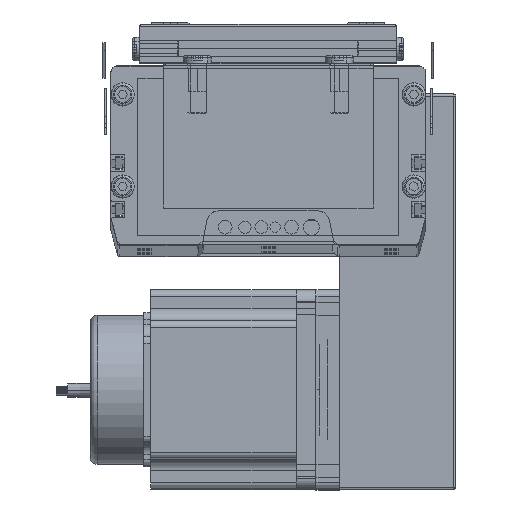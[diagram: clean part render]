
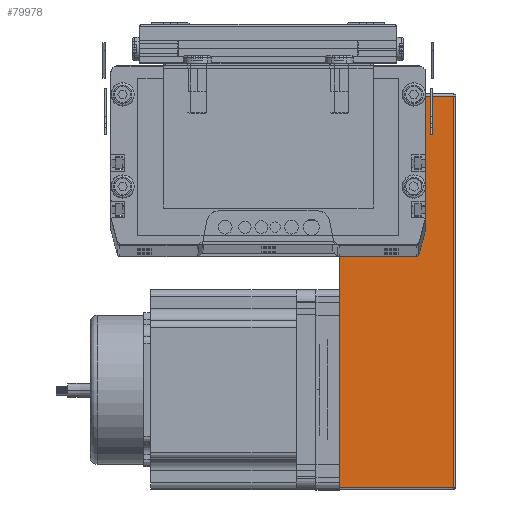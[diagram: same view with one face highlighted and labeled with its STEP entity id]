
A CAD part, top view. The second image highlights one B-rep face of the part: STEP entity #79978.
In plain terms, the highlighted planar face has unit normal (0, 0, 1) as drawn and (0, 1, 0) by its records, which use the part's own axes.
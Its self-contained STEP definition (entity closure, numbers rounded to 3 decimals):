
#798 = CARTESIAN_POINT ( 'NONE',  ( 85.9, 70., 0. ) ) ;
#816 = DIRECTION ( 'NONE',  ( -1., 0., 0. ) ) ;
#817 = VECTOR ( 'NONE', #816, 1000. ) ;
#818 = CARTESIAN_POINT ( 'NONE',  ( 0., 70., 0. ) ) ;
#905 = LINE ( 'NONE', #818, #817 ) ;
#950 = CARTESIAN_POINT ( 'NONE',  ( 169., 70., 0. ) ) ;
#3836 = CARTESIAN_POINT ( 'NONE',  ( 0., 70., 0. ) ) ;
#3838 = LINE ( 'NONE', #3836, #3873 ) ;
#3873 = VECTOR ( 'NONE', #3911, 1000. ) ;
#3902 = DIRECTION ( 'NONE',  ( 1., 0., 0. ) ) ;
#3903 = VECTOR ( 'NONE', #3902, 1000. ) ;
#3911 = DIRECTION ( 'NONE',  ( 1., 0., 0. ) ) ;
#4035 = DIRECTION ( 'NONE',  ( 1., 0., 0. ) ) ;
#4036 = VECTOR ( 'NONE', #4035, 1000. ) ;
#4038 = CARTESIAN_POINT ( 'NONE',  ( 0., 70., 0. ) ) ;
#4039 = LINE ( 'NONE', #4038, #4036 ) ;
#4054 = LINE ( 'NONE', #4061, #3903 ) ;
#4061 = CARTESIAN_POINT ( 'NONE',  ( 0., 70., 0. ) ) ;
#4259 = DIRECTION ( 'NONE',  ( 1., 0., 0. ) ) ;
#4261 = VECTOR ( 'NONE', #4259, 1000. ) ;
#4262 = CARTESIAN_POINT ( 'NONE',  ( 0., 70., 0. ) ) ;
#4275 = CARTESIAN_POINT ( 'NONE',  ( 10.902, 70., 0. ) ) ;
#4292 = CARTESIAN_POINT ( 'NONE',  ( 1., 70., 0. ) ) ;
#4344 = DIRECTION ( 'NONE',  ( 1., 0., 0. ) ) ;
#4345 = VECTOR ( 'NONE', #4344, 1000. ) ;
#4347 = CARTESIAN_POINT ( 'NONE',  ( 0., 70., 49. ) ) ;
#4357 = LINE ( 'NONE', #4422, #4421 ) ;
#4401 = CARTESIAN_POINT ( 'NONE',  ( 169., 70., 49. ) ) ;
#4419 = DIRECTION ( 'NONE',  ( 0., 0., -1. ) ) ;
#4421 = VECTOR ( 'NONE', #4419, 1000. ) ;
#4422 = CARTESIAN_POINT ( 'NONE',  ( 169., 70., 50. ) ) ;
#4527 = LINE ( 'NONE', #4347, #4345 ) ;
#4546 = CARTESIAN_POINT ( 'NONE',  ( 1., 70., 49. ) ) ;
#4553 = LINE ( 'NONE', #4663, #4662 ) ;
#4607 = LINE ( 'NONE', #4262, #4261 ) ;
#4661 = DIRECTION ( 'NONE',  ( 0., 0., 1. ) ) ;
#4662 = VECTOR ( 'NONE', #4661, 1000. ) ;
#4663 = CARTESIAN_POINT ( 'NONE',  ( 1., 70., 50. ) ) ;
#79974 = VERTEX_POINT ( 'NONE', #97322 ) ;
#79975 = VERTEX_POINT ( 'NONE', #97149 ) ;
#79976 = ORIENTED_EDGE ( 'NONE', *, *, #80406, .F. ) ;
#79978 = ADVANCED_FACE ( 'NONE', ( #97339 ), #97299, .F. ) ;
#79979 = EDGE_CURVE ( 'NONE', #79975, #80058, #97252, .T. ) ;
#79981 = VERTEX_POINT ( 'NONE', #97212 ) ;
#80058 = VERTEX_POINT ( 'NONE', #798 ) ;
#80071 = EDGE_CURVE ( 'NONE', #80098, #80058, #905, .T. ) ;
#80098 = VERTEX_POINT ( 'NONE', #950 ) ;
#80215 = ORIENTED_EDGE ( 'NONE', *, *, #79979, .F. ) ;
#80218 = ORIENTED_EDGE ( 'NONE', *, *, #80413, .F. ) ;
#80383 = ORIENTED_EDGE ( 'NONE', *, *, #80071, .T. ) ;
#80406 = EDGE_CURVE ( 'NONE', #79974, #79975, #3838, .T. ) ;
#80411 = EDGE_CURVE ( 'NONE', #80507, #79981, #4054, .T. ) ;
#80413 = EDGE_CURVE ( 'NONE', #79981, #80511, #4039, .T. ) ;
#80436 = EDGE_CURVE ( 'NONE', #80511, #79974, #4607, .T. ) ;
#80439 = ORIENTED_EDGE ( 'NONE', *, *, #80411, .F. ) ;
#80454 = EDGE_CURVE ( 'NONE', #80507, #80554, #4553, .T. ) ;
#80483 = ORIENTED_EDGE ( 'NONE', *, *, #80550, .T. ) ;
#80484 = ORIENTED_EDGE ( 'NONE', *, *, #80454, .T. ) ;
#80507 = VERTEX_POINT ( 'NONE', #4292 ) ;
#80508 = VERTEX_POINT ( 'NONE', #4401 ) ;
#80511 = VERTEX_POINT ( 'NONE', #4275 ) ;
#80522 = EDGE_CURVE ( 'NONE', #80508, #80098, #4357, .T. ) ;
#80550 = EDGE_CURVE ( 'NONE', #80554, #80508, #4527, .T. ) ;
#80554 = VERTEX_POINT ( 'NONE', #4546 ) ;
#80578 = ORIENTED_EDGE ( 'NONE', *, *, #80522, .T. ) ;
#80611 = ORIENTED_EDGE ( 'NONE', *, *, #80436, .F. ) ;
#80661 = EDGE_LOOP ( 'NONE', ( #80383, #80215, #79976, #80611, #80218, #80439, #80484, #80483, #80578 ) ) ;
#97149 = CARTESIAN_POINT ( 'NONE',  ( 80.439, 70., 0. ) ) ;
#97188 = DIRECTION ( 'NONE',  ( 1., 0., 0. ) ) ;
#97195 = VECTOR ( 'NONE', #97188, 1000. ) ;
#97197 = CARTESIAN_POINT ( 'NONE',  ( 0., 70., 0. ) ) ;
#97212 = CARTESIAN_POINT ( 'NONE',  ( 5.418, 70., 0. ) ) ;
#97235 = DIRECTION ( 'NONE',  ( 0., 0., -1. ) ) ;
#97239 = DIRECTION ( 'NONE',  ( 0., -1., 0. ) ) ;
#97241 = CARTESIAN_POINT ( 'NONE',  ( 0., 70., 50. ) ) ;
#97252 = LINE ( 'NONE', #97197, #97195 ) ;
#97299 = PLANE ( 'NONE',  #97337 ) ;
#97322 = CARTESIAN_POINT ( 'NONE',  ( 74.961, 70., 0. ) ) ;
#97337 = AXIS2_PLACEMENT_3D ( 'NONE', #97241, #97239, #97235 ) ;
#97339 = FACE_OUTER_BOUND ( 'NONE', #80661, .T. ) ;
